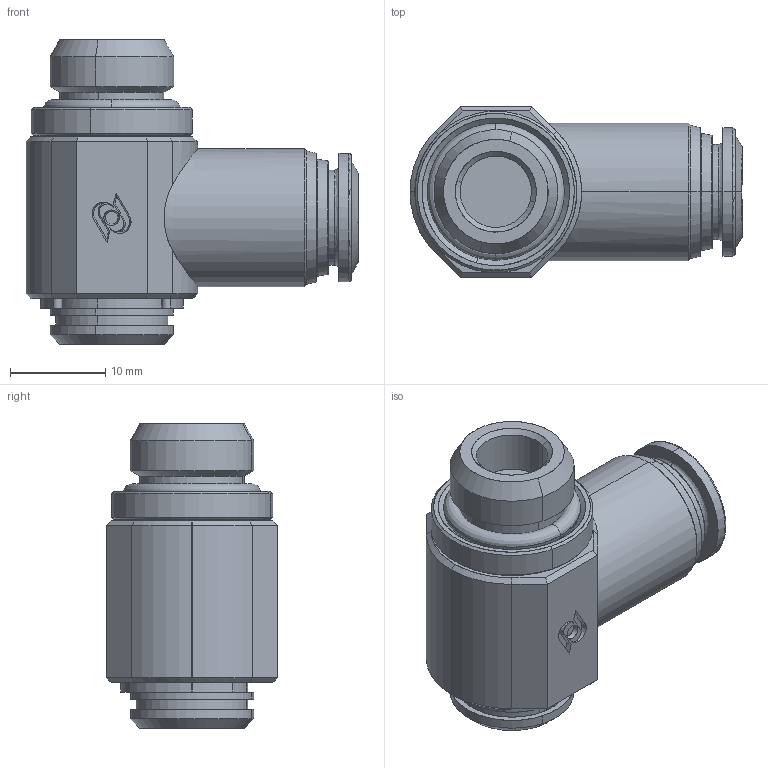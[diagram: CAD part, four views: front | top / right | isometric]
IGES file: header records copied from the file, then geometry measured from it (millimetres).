
Start section: SolidWorks IGES file using analytic representation for surfaces
Global section: file name: K:\Disegni Esecutivi\Serie 57000\ASSIEMI_57000\57550\ASSIEMI_PIENI_57550\5755000006.IGS; native system: SolidWorks 2008; preprocessor: SolidWorks 2008; author: cad02; date: 080218.172846; units: millimetre
Bounding box: 34.9 x 18 x 32 mm (x, y, z)
Surface area: 3954.3 mm2 (no closed solid volume)
Topology: 0 solids, 0 shells, 181 faces, 2318 edges, 2318 vertices
Faces by surface type: revolution 96, bspline 85
